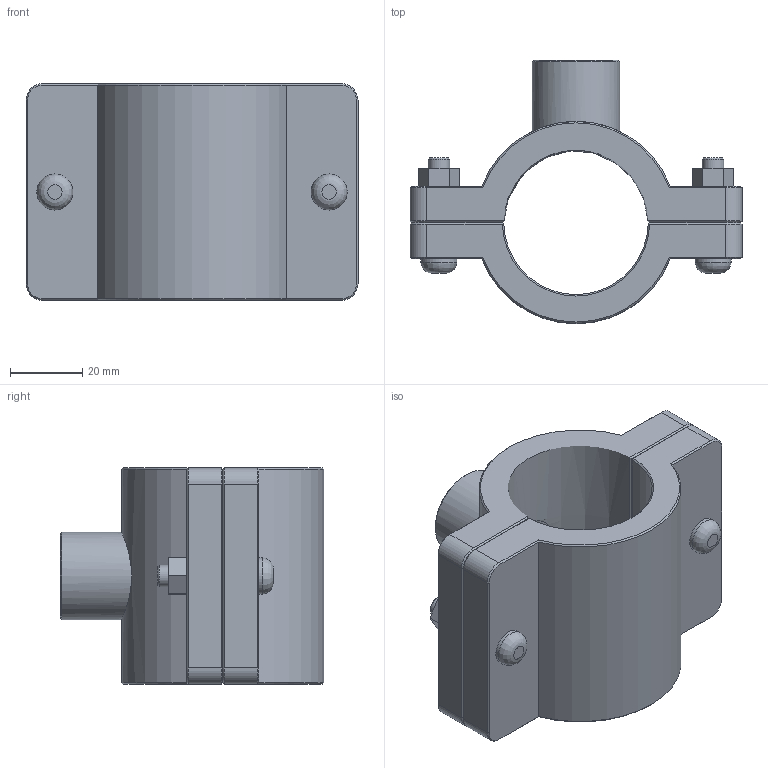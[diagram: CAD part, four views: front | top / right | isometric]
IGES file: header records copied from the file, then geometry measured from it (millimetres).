
Global section: file name: 160760040005_160860040005.ipt; native system: Autodesk Inventor 2015; preprocessor: unknown; author: KIM; date: 20170618.093446; units: millimetre
Bounding box: 92 x 73 x 60 mm (x, y, z)
Volume: 119556.1 mm3; surface area: 35039.9 mm2
Topology: 1 solids, 1 shells, 113 faces, 263 edges, 162 vertices
Faces by surface type: plane 64, cone 23, cylinder 17, revolution 9
Full cylindrical faces by diameter (mm): 6 x2, 10 x4, 24.22 x1
